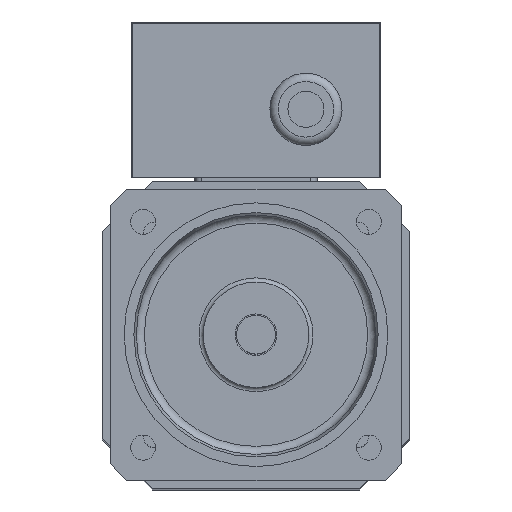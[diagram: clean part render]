
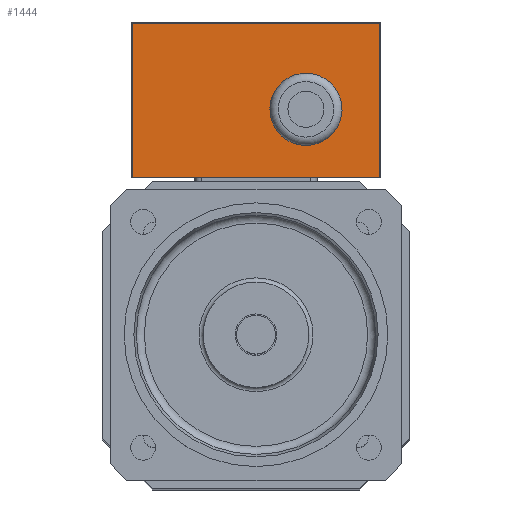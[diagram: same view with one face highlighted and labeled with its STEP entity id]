
A CAD part, top view. The second image highlights one B-rep face of the part: STEP entity #1444.
In plain terms, the highlighted planar face has unit normal (0, 0, 1) as drawn and (0, -1, 0) by its records, which use the part's own axes.
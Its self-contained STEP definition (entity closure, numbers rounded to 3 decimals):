
#509=FACE_BOUND('',#3273,.T.);
#800=PLANE('',#14269);
#1444=ADVANCED_FACE('',(#509,#2527),#800,.T.);
#2527=FACE_OUTER_BOUND('',#3274,.T.);
#3273=EDGE_LOOP('',(#8782));
#3274=EDGE_LOOP('',(#8783,#8784,#8785,#8786));
#4332=LINE('',#22351,#5344);
#4333=LINE('',#22354,#5345);
#4334=LINE('',#22356,#5346);
#4335=LINE('',#22358,#5347);
#5344=VECTOR('',#17830,1.);
#5345=VECTOR('',#17831,1.);
#5346=VECTOR('',#17832,1.);
#5347=VECTOR('',#17833,1.);
#8782=ORIENTED_EDGE('',*,*,#12134,.T.);
#8783=ORIENTED_EDGE('',*,*,#12135,.T.);
#8784=ORIENTED_EDGE('',*,*,#12136,.T.);
#8785=ORIENTED_EDGE('',*,*,#12137,.T.);
#8786=ORIENTED_EDGE('',*,*,#12138,.T.);
#10324=VERTEX_POINT('',#22350);
#10325=VERTEX_POINT('',#22352);
#10326=VERTEX_POINT('',#22353);
#10327=VERTEX_POINT('',#22355);
#10328=VERTEX_POINT('',#22357);
#12134=EDGE_CURVE('',#10324,#10324,#12952,.T.);
#12135=EDGE_CURVE('',#10325,#10326,#4332,.T.);
#12136=EDGE_CURVE('',#10326,#10327,#4333,.T.);
#12137=EDGE_CURVE('',#10327,#10328,#4334,.T.);
#12138=EDGE_CURVE('',#10328,#10325,#4335,.T.);
#12952=CIRCLE('',#14268,10.);
#14268=AXIS2_PLACEMENT_3D('',#22349,#17828,#17829);
#14269=AXIS2_PLACEMENT_3D('',#22359,#17834,#17835);
#17828=DIRECTION('',(0.,1.,0.));
#17829=DIRECTION('',(0.,0.,1.));
#17830=DIRECTION('',(-1.,0.,0.));
#17831=DIRECTION('',(0.,0.,-1.));
#17832=DIRECTION('',(1.,0.,0.));
#17833=DIRECTION('',(0.,0.,1.));
#17834=DIRECTION('',(0.,-1.,0.));
#17835=DIRECTION('',(0.,0.,-1.));
#22349=CARTESIAN_POINT('',(63.,0.,24.5));
#22350=CARTESIAN_POINT('',(63.,0.,34.5));
#22351=CARTESIAN_POINT('',(45.,0.,55.5));
#22352=CARTESIAN_POINT('',(89.5,0.,55.5));
#22353=CARTESIAN_POINT('',(0.5,0.,55.5));
#22354=CARTESIAN_POINT('',(0.5,0.,0.));
#22355=CARTESIAN_POINT('',(0.5,0.,0.));
#22356=CARTESIAN_POINT('',(45.,0.,0.));
#22357=CARTESIAN_POINT('',(89.5,0.,0.));
#22358=CARTESIAN_POINT('',(89.5,0.,0.));
#22359=CARTESIAN_POINT('',(45.,0.,0.));
